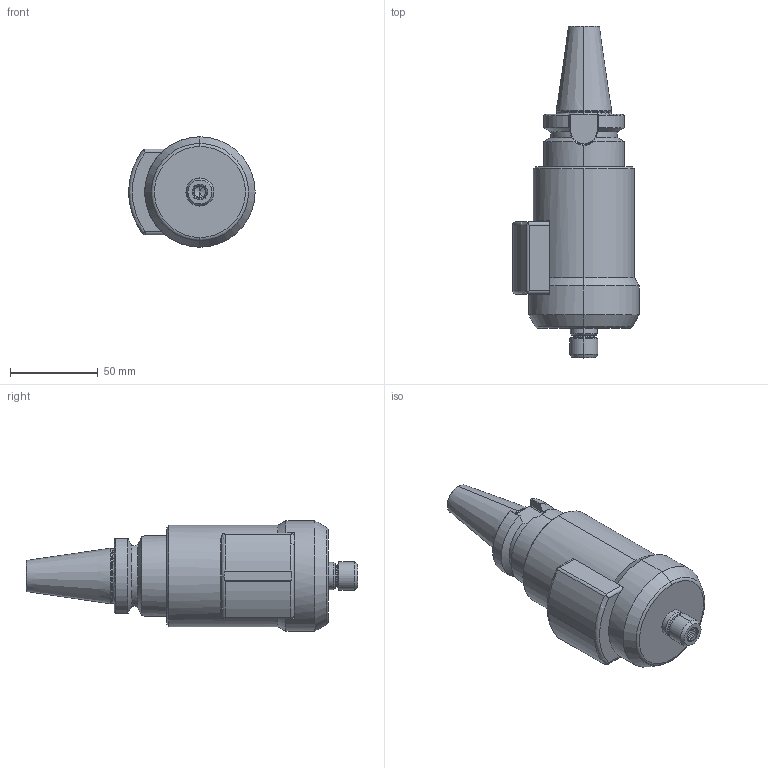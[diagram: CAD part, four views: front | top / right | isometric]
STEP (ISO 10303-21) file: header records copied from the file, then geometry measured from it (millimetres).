
FILE_DESCRIPTION (( 'STEP AP214' ), '1' );
FILE_NAME ('TJS-GJET-BT30-Detail.STEP', '2018-05-01T07:18:54', ( '' ), ( '' ), 'SwSTEP 2.0', 'SolidWorks 2015', '' );
FILE_SCHEMA (( 'AUTOMOTIVE_DESIGN' ));
Length unit declared in the file: millimetre
Products named in the file (1): TJS-GJET-BT30-Detail
Bounding box: 72.05 x 189.44 x 63 mm (x, y, z)
Volume: 342221 mm3; surface area: 37430.2 mm2
Topology: 1 solids, 1 shells, 156 faces, 368 edges, 218 vertices
Faces by surface type: cone 48, cylinder 47, plane 41, torus 16, bspline 2, sphere 2
Entity records: 5064 total; most frequent: CARTESIAN_POINT 1496, DIRECTION 764, ORIENTED_EDGE 724, EDGE_CURVE 362, AXIS2_PLACEMENT_3D 306, VERTEX_POINT 218, EDGE_LOOP 166, ADVANCED_FACE 156
